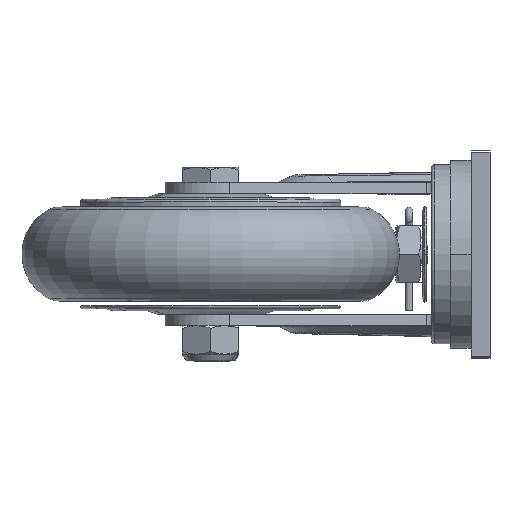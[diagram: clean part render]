
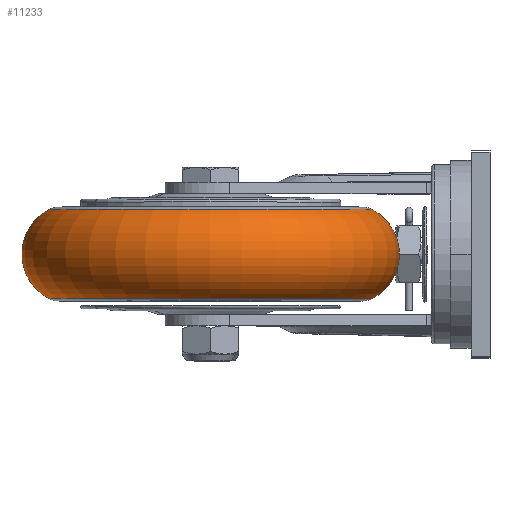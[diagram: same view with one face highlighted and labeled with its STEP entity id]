
A CAD part, top view. The second image highlights one B-rep face of the part: STEP entity #11233.
In plain terms, the highlighted toroidal (fillet/blend) face has major radius 73.401 mm and minor radius 26.599 mm.
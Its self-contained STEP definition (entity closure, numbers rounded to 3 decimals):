
#10969=CARTESIAN_POINT('',(0.,23.741,0.));
#10970=DIRECTION('',(0.,1.,0.));
#10971=DIRECTION('',(-1.,0.,-0.005));
#10972=AXIS2_PLACEMENT_3D('',#10969,#10970,#10971);
#10974=CARTESIAN_POINT('',(-73.4,0.,-0.387));
#10975=DIRECTION('',(-0.005,0.,1.));
#10976=DIRECTION('',(-0.451,0.893,-0.002));
#10977=AXIS2_PLACEMENT_3D('',#10974,#10975,#10976);
#10979=CARTESIAN_POINT('',(73.4,0.,0.387));
#10980=DIRECTION('',(0.005,0.,-1.));
#10981=DIRECTION('',(0.451,0.893,0.002));
#10982=AXIS2_PLACEMENT_3D('',#10979,#10980,#10981);
#11004=CARTESIAN_POINT('',(0.,-23.741,0.));
#11005=DIRECTION('',(0.,1.,0.));
#11006=DIRECTION('',(-1.,0.,-0.005));
#11007=AXIS2_PLACEMENT_3D('',#11004,#11005,#11006);
#11097=CARTESIAN_POINT('',(-85.394,23.741,
-0.45));
#11098=VERTEX_POINT('',#11097);
#11099=CARTESIAN_POINT('',(-85.394,-23.741,
-0.45));
#11100=VERTEX_POINT('',#11099);
#11117=CARTESIAN_POINT('',(85.394,23.741,
0.45));
#11118=VERTEX_POINT('',#11117);
#11119=CARTESIAN_POINT('',(85.394,-23.741,
0.45));
#11120=VERTEX_POINT('',#11119);
#11219=CARTESIAN_POINT('',(0.,0.,0.));
#11220=DIRECTION('',(0.,1.,0.));
#11221=DIRECTION('',(1.,0.,0.005));
#11222=AXIS2_PLACEMENT_3D('',#11219,#11220,#11221);
#11223=TOROIDAL_SURFACE('',#11222,73.401,26.599);
#11225=ORIENTED_EDGE('',*,*,#11224,.F.);
#11226=ORIENTED_EDGE('',*,*,#11207,.T.);
#11228=ORIENTED_EDGE('',*,*,#11227,.T.);
#11230=ORIENTED_EDGE('',*,*,#11229,.F.);
#11231=EDGE_LOOP('',(#11225,#11226,#11228,#11230));
#11232=FACE_OUTER_BOUND('',#11231,.F.);
#11233=ADVANCED_FACE('',(#11232),#11223,.T.);
#10973=CIRCLE('',#10972,85.395);
#10978=CIRCLE('',#10977,26.599);
#10983=CIRCLE('',#10982,26.599);
#11008=CIRCLE('',#11007,85.395);
#11207=EDGE_CURVE('',#11098,#11118,#10973,.T.);
#11224=EDGE_CURVE('',#11098,#11100,#10978,.T.);
#11227=EDGE_CURVE('',#11118,#11120,#10983,.T.);
#11229=EDGE_CURVE('',#11100,#11120,#11008,.T.);
